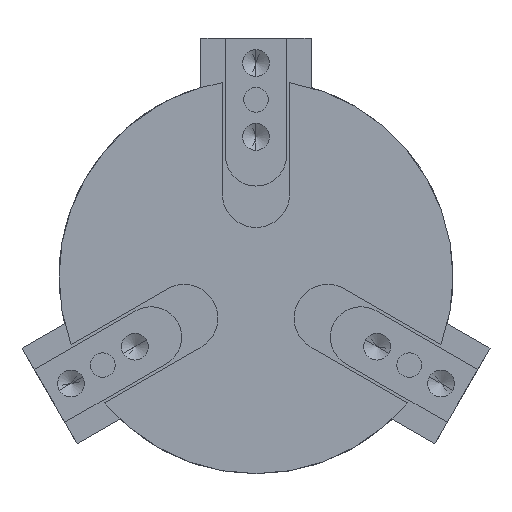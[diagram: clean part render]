
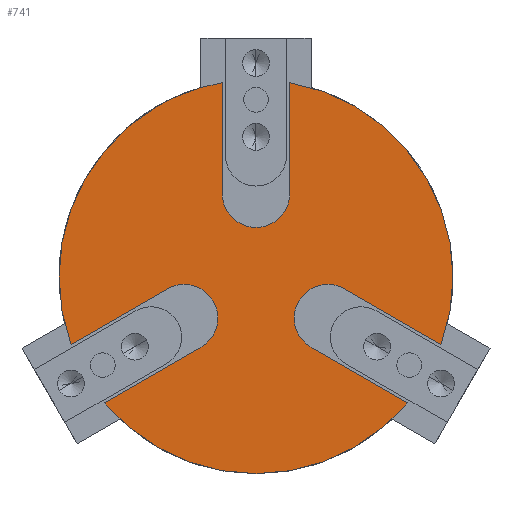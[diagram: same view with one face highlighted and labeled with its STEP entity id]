
A CAD part, front view. The second image highlights one B-rep face of the part: STEP entity #741.
In plain terms, the highlighted planar face has unit normal (0, -1, 0).
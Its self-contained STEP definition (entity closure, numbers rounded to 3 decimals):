
#63 = CARTESIAN_POINT ( 'NONE',  ( 0., -1.181, -25.4 ) ) ;
#153 = CARTESIAN_POINT ( 'NONE',  ( -16.284, -1.181, 19.493 ) ) ;
#236 = EDGE_CURVE ( 'NONE', #1895, #4008, #2103, .T. ) ;
#266 = CARTESIAN_POINT ( 'NONE',  ( 10.706, -1.181, 4.356 ) ) ;
#277 = ORIENTED_EDGE ( 'NONE', *, *, #1745, .T. ) ;
#336 = VERTEX_POINT ( 'NONE', #4574 ) ;
#338 = DIRECTION ( 'NONE',  ( 0., 0., 1. ) ) ;
#494 = AXIS2_PLACEMENT_3D ( 'NONE', #4091, #2021, #4446 ) ;
#560 = AXIS2_PLACEMENT_3D ( 'NONE', #1498, #4659, #2584 ) ;
#593 = VERTEX_POINT ( 'NONE', #1809 ) ;
#618 = CARTESIAN_POINT ( 'NONE',  ( 10.706, -1.181, -4.356 ) ) ;
#686 = ORIENTED_EDGE ( 'NONE', *, *, #3278, .T. ) ;
#703 = CIRCLE ( 'NONE', #4303, 25.4 ) ;
#741 = ADVANCED_FACE ( 'NONE', ( #4152 ), #2575, .F. ) ;
#754 = ORIENTED_EDGE ( 'NONE', *, *, #1059, .T. ) ;
#788 = DIRECTION ( 'NONE',  ( -0.5, 0., 0.866 ) ) ;
#842 = DIRECTION ( 'NONE',  ( -1., 0., 0. ) ) ;
#848 = VERTEX_POINT ( 'NONE', #2201 ) ;
#850 = ORIENTED_EDGE ( 'NONE', *, *, #4109, .T. ) ;
#919 = VERTEX_POINT ( 'NONE', #1463 ) ;
#1059 = EDGE_CURVE ( 'NONE', #2382, #2407, #1628, .T. ) ;
#1091 = ORIENTED_EDGE ( 'NONE', *, *, #2024, .T. ) ;
#1112 = CARTESIAN_POINT ( 'NONE',  ( -16.284, -1.181, -19.493 ) ) ;
#1117 = EDGE_CURVE ( 'NONE', #3043, #2210, #4195, .T. ) ;
#1150 = EDGE_CURVE ( 'NONE', #1265, #2382, #2269, .T. ) ;
#1197 = ORIENTED_EDGE ( 'NONE', *, *, #2665, .F. ) ;
#1199 = CARTESIAN_POINT ( 'NONE',  ( -8.739, -1.181, 23.849 ) ) ;
#1256 = VECTOR ( 'NONE', #2788, 1000. ) ;
#1262 = ORIENTED_EDGE ( 'NONE', *, *, #4044, .F. ) ;
#1265 = VERTEX_POINT ( 'NONE', #4482 ) ;
#1391 = AXIS2_PLACEMENT_3D ( 'NONE', #4186, #2123, #4539 ) ;
#1404 = VECTOR ( 'NONE', #1572, 1000. ) ;
#1463 = CARTESIAN_POINT ( 'NONE',  ( -9.126, -1.181, 7.094 ) ) ;
#1498 = CARTESIAN_POINT ( 'NONE',  ( 0., -1.181, 0. ) ) ;
#1540 = CARTESIAN_POINT ( 'NONE',  ( 10.706, -1.181, 0. ) ) ;
#1572 = DIRECTION ( 'NONE',  ( 0.5, 0., -0.866 ) ) ;
#1581 = CARTESIAN_POINT ( 'NONE',  ( -1.581, -1.181, -11.45 ) ) ;
#1628 = CIRCLE ( 'NONE', #3477, 4.356 ) ;
#1668 = CARTESIAN_POINT ( 'NONE',  ( -5.353, -1.181, 9.272 ) ) ;
#1721 = DIRECTION ( 'NONE',  ( 0., 1., 0. ) ) ;
#1728 = CARTESIAN_POINT ( 'NONE',  ( -5.353, -1.181, -9.272 ) ) ;
#1745 = EDGE_CURVE ( 'NONE', #2121, #593, #4068, .T. ) ;
#1792 = CARTESIAN_POINT ( 'NONE',  ( 25.024, -1.181, 4.356 ) ) ;
#1809 = CARTESIAN_POINT ( 'NONE',  ( -8.739, -1.181, -23.849 ) ) ;
#1895 = VERTEX_POINT ( 'NONE', #1112 ) ;
#1907 = EDGE_CURVE ( 'NONE', #3091, #593, #4342, .T. ) ;
#1923 = DIRECTION ( 'NONE',  ( 0., 0., 1. ) ) ;
#1985 = CARTESIAN_POINT ( 'NONE',  ( 25.024, -1.181, 4.356 ) ) ;
#2021 = DIRECTION ( 'NONE',  ( 0., 1., 0. ) ) ;
#2024 = EDGE_CURVE ( 'NONE', #919, #4008, #3908, .T. ) ;
#2041 = DIRECTION ( 'NONE',  ( -0.866, 0., -0.5 ) ) ;
#2056 = AXIS2_PLACEMENT_3D ( 'NONE', #4650, #2579, #338 ) ;
#2068 = VECTOR ( 'NONE', #788, 1000. ) ;
#2099 = DIRECTION ( 'NONE',  ( 0.866, 0., -0.5 ) ) ;
#2103 = CIRCLE ( 'NONE', #3884, 25.4 ) ;
#2121 = VERTEX_POINT ( 'NONE', #1581 ) ;
#2123 = DIRECTION ( 'NONE',  ( 0., 1., 0. ) ) ;
#2201 = CARTESIAN_POINT ( 'NONE',  ( -9.126, -1.181, -7.094 ) ) ;
#2210 = VERTEX_POINT ( 'NONE', #4429 ) ;
#2213 = EDGE_CURVE ( 'NONE', #2407, #3565, #3316, .T. ) ;
#2269 = LINE ( 'NONE', #3016, #3174 ) ;
#2284 = CARTESIAN_POINT ( 'NONE',  ( -16.284, -1.181, 19.493 ) ) ;
#2372 = ORIENTED_EDGE ( 'NONE', *, *, #236, .F. ) ;
#2382 = VERTEX_POINT ( 'NONE', #618 ) ;
#2407 = VERTEX_POINT ( 'NONE', #266 ) ;
#2443 = CARTESIAN_POINT ( 'NONE',  ( -8.739, -1.181, -23.849 ) ) ;
#2575 = PLANE ( 'NONE',  #560 ) ;
#2579 = DIRECTION ( 'NONE',  ( 0., 1., 0. ) ) ;
#2584 = DIRECTION ( 'NONE',  ( 0., 0., 1. ) ) ;
#2621 = AXIS2_PLACEMENT_3D ( 'NONE', #1728, #4165, #2099 ) ;
#2665 = EDGE_CURVE ( 'NONE', #3043, #3565, #3419, .T. ) ;
#2772 = CIRCLE ( 'NONE', #3142, 4.356 ) ;
#2788 = DIRECTION ( 'NONE',  ( -0.5, 0., -0.866 ) ) ;
#2811 = ORIENTED_EDGE ( 'NONE', *, *, #1907, .F. ) ;
#2873 = CARTESIAN_POINT ( 'NONE',  ( -16.284, -1.181, -19.493 ) ) ;
#2950 = ORIENTED_EDGE ( 'NONE', *, *, #2213, .T. ) ;
#2996 = CARTESIAN_POINT ( 'NONE',  ( 0., -1.181, 0. ) ) ;
#3016 = CARTESIAN_POINT ( 'NONE',  ( 25.024, -1.181, -4.356 ) ) ;
#3034 = LINE ( 'NONE', #2873, #3145 ) ;
#3043 = VERTEX_POINT ( 'NONE', #4035 ) ;
#3055 = DIRECTION ( 'NONE',  ( 1., 0., 0. ) ) ;
#3091 = VERTEX_POINT ( 'NONE', #63 ) ;
#3142 = AXIS2_PLACEMENT_3D ( 'NONE', #1668, #4113, #2041 ) ;
#3145 = VECTOR ( 'NONE', #3549, 1000. ) ;
#3174 = VECTOR ( 'NONE', #842, 1000. ) ;
#3202 = CIRCLE ( 'NONE', #2621, 4.356 ) ;
#3247 = CIRCLE ( 'NONE', #1391, 4.356 ) ;
#3278 = EDGE_CURVE ( 'NONE', #848, #336, #3202, .T. ) ;
#3304 = ORIENTED_EDGE ( 'NONE', *, *, #1117, .T. ) ;
#3316 = LINE ( 'NONE', #1985, #4237 ) ;
#3330 = DIRECTION ( 'NONE',  ( 0., 1., 0. ) ) ;
#3419 = CIRCLE ( 'NONE', #494, 25.4 ) ;
#3477 = AXIS2_PLACEMENT_3D ( 'NONE', #1540, #3991, #1923 ) ;
#3549 = DIRECTION ( 'NONE',  ( 0.5, 0., 0.866 ) ) ;
#3565 = VERTEX_POINT ( 'NONE', #1792 ) ;
#3593 = ORIENTED_EDGE ( 'NONE', *, *, #3967, .T. ) ;
#3599 = EDGE_CURVE ( 'NONE', #1895, #848, #3034, .T. ) ;
#3685 = DIRECTION ( 'NONE',  ( 0., 0., 1. ) ) ;
#3701 = EDGE_LOOP ( 'NONE', ( #2372, #4009, #686, #850, #277, #2811, #1262, #3823, #754, #2950, #1197, #3304, #3593, #1091 ) ) ;
#3814 = CARTESIAN_POINT ( 'NONE',  ( 0., -1.181, 0. ) ) ;
#3823 = ORIENTED_EDGE ( 'NONE', *, *, #1150, .T. ) ;
#3884 = AXIS2_PLACEMENT_3D ( 'NONE', #2996, #3330, #3685 ) ;
#3908 = LINE ( 'NONE', #2284, #2068 ) ;
#3967 = EDGE_CURVE ( 'NONE', #2210, #919, #2772, .T. ) ;
#3991 = DIRECTION ( 'NONE',  ( 0., 1., 0. ) ) ;
#4008 = VERTEX_POINT ( 'NONE', #153 ) ;
#4009 = ORIENTED_EDGE ( 'NONE', *, *, #3599, .T. ) ;
#4035 = CARTESIAN_POINT ( 'NONE',  ( -8.739, -1.181, 23.849 ) ) ;
#4044 = EDGE_CURVE ( 'NONE', #1265, #3091, #703, .T. ) ;
#4068 = LINE ( 'NONE', #2443, #1256 ) ;
#4091 = CARTESIAN_POINT ( 'NONE',  ( 0., -1.181, 0. ) ) ;
#4109 = EDGE_CURVE ( 'NONE', #336, #2121, #3247, .T. ) ;
#4113 = DIRECTION ( 'NONE',  ( 0., 1., 0. ) ) ;
#4152 = FACE_OUTER_BOUND ( 'NONE', #3701, .T. ) ;
#4162 = DIRECTION ( 'NONE',  ( 0., 0., 1. ) ) ;
#4165 = DIRECTION ( 'NONE',  ( 0., 1., 0. ) ) ;
#4186 = CARTESIAN_POINT ( 'NONE',  ( -5.353, -1.181, -9.272 ) ) ;
#4195 = LINE ( 'NONE', #1199, #1404 ) ;
#4237 = VECTOR ( 'NONE', #3055, 1000. ) ;
#4303 = AXIS2_PLACEMENT_3D ( 'NONE', #3814, #1721, #4162 ) ;
#4342 = CIRCLE ( 'NONE', #2056, 25.4 ) ;
#4429 = CARTESIAN_POINT ( 'NONE',  ( -1.581, -1.181, 11.45 ) ) ;
#4446 = DIRECTION ( 'NONE',  ( 0., 0., 1. ) ) ;
#4482 = CARTESIAN_POINT ( 'NONE',  ( 25.024, -1.181, -4.356 ) ) ;
#4539 = DIRECTION ( 'NONE',  ( 0.866, 0., -0.5 ) ) ;
#4574 = CARTESIAN_POINT ( 'NONE',  ( -5.353, -1.181, -4.916 ) ) ;
#4650 = CARTESIAN_POINT ( 'NONE',  ( 0., -1.181, 0. ) ) ;
#4659 = DIRECTION ( 'NONE',  ( 0., 1., 0. ) ) ;
